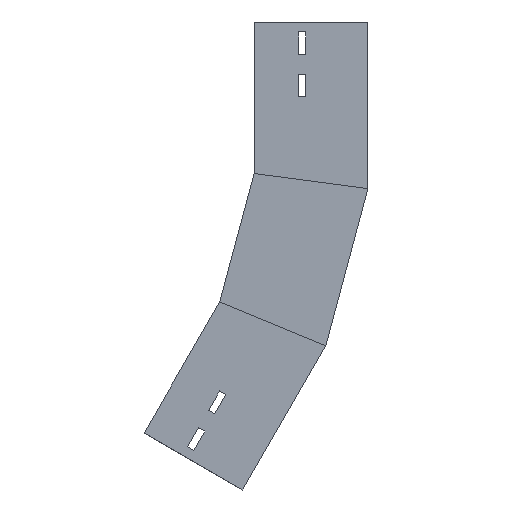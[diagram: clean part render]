
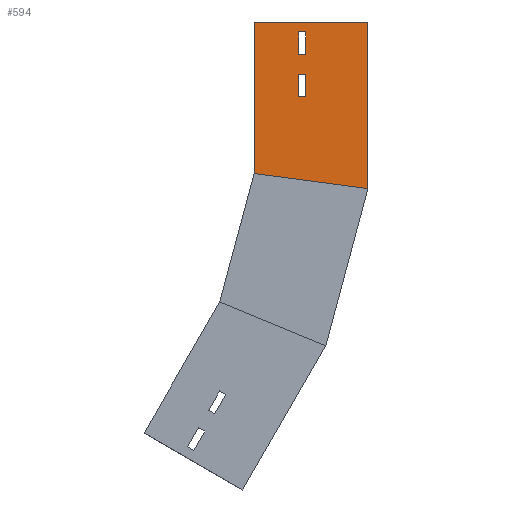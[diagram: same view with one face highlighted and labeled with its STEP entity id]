
A CAD part, left-side view. The second image highlights one B-rep face of the part: STEP entity #594.
In plain terms, the highlighted planar face has unit normal (-1, 0, 0) as drawn and (1, 0, 0) by its records, which use the part's own axes.
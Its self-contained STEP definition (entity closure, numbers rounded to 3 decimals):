
#5 = LINE ( 'NONE', #401, #327 ) ;
#48 = DIRECTION ( 'NONE',  ( 0., -0.866, -0.5 ) ) ;
#50 = AXIS2_PLACEMENT_3D ( 'NONE', #463, #252, #930 ) ;
#57 = CARTESIAN_POINT ( 'NONE',  ( 0., 151.452, -387.211 ) ) ;
#78 = LINE ( 'NONE', #94, #272 ) ;
#86 = EDGE_CURVE ( 'NONE', #686, #225, #231, .T. ) ;
#89 = ORIENTED_EDGE ( 'NONE', *, *, #557, .F. ) ;
#94 = CARTESIAN_POINT ( 'NONE',  ( 0., 139.072, -263.767 ) ) ;
#114 = ORIENTED_EDGE ( 'NONE', *, *, #431, .F. ) ;
#128 = ORIENTED_EDGE ( 'NONE', *, *, #1330, .F. ) ;
#143 = CARTESIAN_POINT ( 'NONE',  ( 0., 167.349, -400.745 ) ) ;
#153 = EDGE_LOOP ( 'NONE', ( #1004, #128, #114, #89 ) ) ;
#159 = VERTEX_POINT ( 'NONE', #1460 ) ;
#161 = CARTESIAN_POINT ( 'NONE',  ( 0., 146.514, -364.658 ) ) ;
#180 = VECTOR ( 'NONE', #939, 1000. ) ;
#192 = VECTOR ( 'NONE', #1060, 1000. ) ;
#201 = DIRECTION ( 'NONE',  ( 0., 0.866, 0.5 ) ) ;
#217 = ORIENTED_EDGE ( 'NONE', *, *, #920, .F. ) ;
#225 = VERTEX_POINT ( 'NONE', #446 ) ;
#231 = LINE ( 'NONE', #669, #1403 ) ;
#252 = DIRECTION ( 'NONE',  ( -1., 0., 0. ) ) ;
#272 = VECTOR ( 'NONE', #877, 1000. ) ;
#280 = VERTEX_POINT ( 'NONE', #423 ) ;
#312 = CARTESIAN_POINT ( 'NONE',  ( 0., 178.349, -419.798 ) ) ;
#316 = CARTESIAN_POINT ( 'NONE',  ( 0., 157.514, -383.711 ) ) ;
#317 = VECTOR ( 'NONE', #485, 1000. ) ;
#327 = VECTOR ( 'NONE', #48, 1000. ) ;
#341 = DIRECTION ( 'NONE',  ( 0., 0.5, -0.866 ) ) ;
#357 = PLANE ( 'NONE',  #50 ) ;
#363 = VERTEX_POINT ( 'NONE', #161 ) ;
#399 = CARTESIAN_POINT ( 'NONE',  ( 0., 172.287, -423.298 ) ) ;
#401 = CARTESIAN_POINT ( 'NONE',  ( 0., 146.514, -364.658 ) ) ;
#402 = VERTEX_POINT ( 'NONE', #743 ) ;
#423 = CARTESIAN_POINT ( 'NONE',  ( 0., 146.477, -276.594 ) ) ;
#431 = EDGE_CURVE ( 'NONE', #859, #1324, #1104, .T. ) ;
#446 = CARTESIAN_POINT ( 'NONE',  ( 0., 167.349, -400.745 ) ) ;
#463 = CARTESIAN_POINT ( 'NONE',  ( 0., 41.644, -320.017 ) ) ;
#476 = LINE ( 'NONE', #1171, #1026 ) ;
#485 = DIRECTION ( 'NONE',  ( 0., -0.866, -0.5 ) ) ;
#486 = EDGE_CURVE ( 'NONE', #542, #402, #476, .T. ) ;
#505 = CARTESIAN_POINT ( 'NONE',  ( 0., 123.944, -462.565 ) ) ;
#512 = ORIENTED_EDGE ( 'NONE', *, *, #486, .T. ) ;
#542 = VERTEX_POINT ( 'NONE', #1095 ) ;
#552 = EDGE_LOOP ( 'NONE', ( #758, #1051, #217, #827 ) ) ;
#557 = EDGE_CURVE ( 'NONE', #363, #859, #5, .T. ) ;
#567 = EDGE_CURVE ( 'NONE', #402, #881, #682, .T. ) ;
#588 = EDGE_LOOP ( 'NONE', ( #1031, #512, #1238, #619 ) ) ;
#590 = CARTESIAN_POINT ( 'NONE',  ( 0., 157.514, -383.711 ) ) ;
#594 = ADVANCED_FACE ( 'NONE', ( #1285, #865, #1436 ), #357, .F. ) ;
#619 = ORIENTED_EDGE ( 'NONE', *, *, #747, .F. ) ;
#663 = EDGE_CURVE ( 'NONE', #280, #542, #896, .T. ) ;
#669 = CARTESIAN_POINT ( 'NONE',  ( 0., 178.349, -419.798 ) ) ;
#682 = LINE ( 'NONE', #505, #180 ) ;
#686 = VERTEX_POINT ( 'NONE', #312 ) ;
#743 = CARTESIAN_POINT ( 'NONE',  ( 0., 123.944, -462.565 ) ) ;
#747 = EDGE_CURVE ( 'NONE', #280, #881, #78, .T. ) ;
#750 = CARTESIAN_POINT ( 'NONE',  ( 0., 178.349, -419.798 ) ) ;
#753 = CARTESIAN_POINT ( 'NONE',  ( 0., 61.047, -311.98 ) ) ;
#758 = ORIENTED_EDGE ( 'NONE', *, *, #86, .F. ) ;
#809 = VECTOR ( 'NONE', #1365, 1000. ) ;
#824 = CARTESIAN_POINT ( 'NONE',  ( 0., 221.372, -406.315 ) ) ;
#827 = ORIENTED_EDGE ( 'NONE', *, *, #1024, .F. ) ;
#840 = LINE ( 'NONE', #399, #1113 ) ;
#859 = VERTEX_POINT ( 'NONE', #1093 ) ;
#862 = LINE ( 'NONE', #750, #959 ) ;
#865 = FACE_BOUND ( 'NONE', #153, .T. ) ;
#877 = DIRECTION ( 'NONE',  ( 0., 0.5, -0.866 ) ) ;
#881 = VERTEX_POINT ( 'NONE', #824 ) ;
#892 = VERTEX_POINT ( 'NONE', #948 ) ;
#896 = LINE ( 'NONE', #753, #809 ) ;
#899 = LINE ( 'NONE', #1486, #1085 ) ;
#920 = EDGE_CURVE ( 'NONE', #892, #159, #840, .T. ) ;
#923 = DIRECTION ( 'NONE',  ( 0., 0.5, -0.866 ) ) ;
#930 = DIRECTION ( 'NONE',  ( 0., 0., 1. ) ) ;
#939 = DIRECTION ( 'NONE',  ( 0., 0.866, 0.5 ) ) ;
#948 = CARTESIAN_POINT ( 'NONE',  ( 0., 161.287, -404.245 ) ) ;
#953 = DIRECTION ( 'NONE',  ( 0., 0.5, -0.866 ) ) ;
#959 = VECTOR ( 'NONE', #201, 1000. ) ;
#1003 = VECTOR ( 'NONE', #923, 1000. ) ;
#1004 = ORIENTED_EDGE ( 'NONE', *, *, #1032, .F. ) ;
#1024 = EDGE_CURVE ( 'NONE', #225, #892, #1174, .T. ) ;
#1026 = VECTOR ( 'NONE', #341, 1000. ) ;
#1031 = ORIENTED_EDGE ( 'NONE', *, *, #663, .T. ) ;
#1032 = EDGE_CURVE ( 'NONE', #1081, #363, #1429, .T. ) ;
#1047 = CARTESIAN_POINT ( 'NONE',  ( 0., 151.452, -387.211 ) ) ;
#1051 = ORIENTED_EDGE ( 'NONE', *, *, #1091, .F. ) ;
#1060 = DIRECTION ( 'NONE',  ( 0., -0.5, 0.866 ) ) ;
#1081 = VERTEX_POINT ( 'NONE', #316 ) ;
#1085 = VECTOR ( 'NONE', #1477, 1000. ) ;
#1091 = EDGE_CURVE ( 'NONE', #159, #686, #862, .T. ) ;
#1093 = CARTESIAN_POINT ( 'NONE',  ( 0., 140.452, -368.158 ) ) ;
#1095 = CARTESIAN_POINT ( 'NONE',  ( 0., 41.644, -320.017 ) ) ;
#1104 = LINE ( 'NONE', #57, #1003 ) ;
#1113 = VECTOR ( 'NONE', #953, 1000. ) ;
#1144 = DIRECTION ( 'NONE',  ( 0., -0.5, 0.866 ) ) ;
#1171 = CARTESIAN_POINT ( 'NONE',  ( 0., 41.644, -320.017 ) ) ;
#1174 = LINE ( 'NONE', #143, #317 ) ;
#1238 = ORIENTED_EDGE ( 'NONE', *, *, #567, .T. ) ;
#1285 = FACE_BOUND ( 'NONE', #552, .T. ) ;
#1324 = VERTEX_POINT ( 'NONE', #1047 ) ;
#1330 = EDGE_CURVE ( 'NONE', #1324, #1081, #899, .T. ) ;
#1365 = DIRECTION ( 'NONE',  ( 0., -0.924, -0.383 ) ) ;
#1403 = VECTOR ( 'NONE', #1144, 1000. ) ;
#1429 = LINE ( 'NONE', #590, #192 ) ;
#1436 = FACE_OUTER_BOUND ( 'NONE', #588, .T. ) ;
#1460 = CARTESIAN_POINT ( 'NONE',  ( 0., 172.287, -423.298 ) ) ;
#1477 = DIRECTION ( 'NONE',  ( 0., 0.866, 0.5 ) ) ;
#1486 = CARTESIAN_POINT ( 'NONE',  ( 0., 157.514, -383.711 ) ) ;
